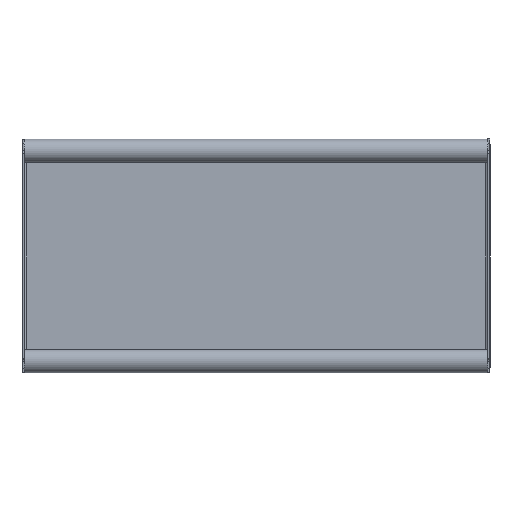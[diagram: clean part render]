
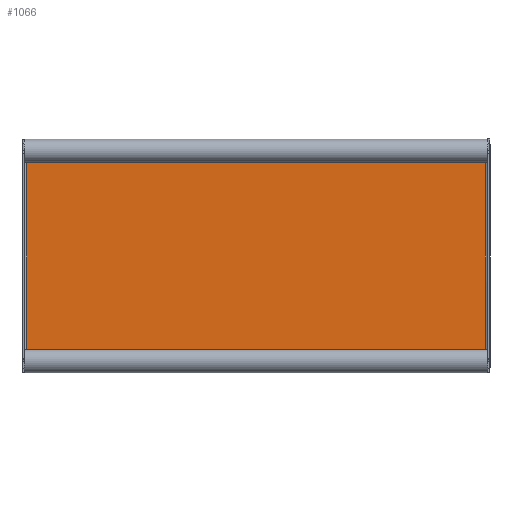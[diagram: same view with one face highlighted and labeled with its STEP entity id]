
A CAD part, front view. The second image highlights one B-rep face of the part: STEP entity #1066.
In plain terms, the highlighted planar face has unit normal (0, -1, 0).
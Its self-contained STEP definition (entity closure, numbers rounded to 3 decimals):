
#233 = DIRECTION ( 'NONE',  ( 0., 0., 1. ) ) ;
#445 = FACE_OUTER_BOUND ( 'NONE', #9663, .T. ) ;
#620 = EDGE_CURVE ( 'NONE', #5207, #5298, #9362, .T. ) ;
#685 = EDGE_CURVE ( 'NONE', #5207, #6225, #3852, .T. ) ;
#723 = CARTESIAN_POINT ( 'NONE',  ( -199., -2., 99. ) ) ;
#763 = CARTESIAN_POINT ( 'NONE',  ( -195., -2., -96. ) ) ;
#795 = VERTEX_POINT ( 'NONE', #8731 ) ;
#1066 = ADVANCED_FACE ( 'NONE', ( #445 ), #6965, .F. ) ;
#1067 = CIRCLE ( 'NONE', #3922, 5. ) ;
#1097 = ORIENTED_EDGE ( 'NONE', *, *, #6200, .F. ) ;
#1419 = LINE ( 'NONE', #2145, #3929 ) ;
#1674 = DIRECTION ( 'NONE',  ( 0., 0., 1. ) ) ;
#1818 = LINE ( 'NONE', #5030, #3424 ) ;
#1878 = VERTEX_POINT ( 'NONE', #8595 ) ;
#2112 = EDGE_CURVE ( 'NONE', #5957, #7296, #7720, .T. ) ;
#2145 = CARTESIAN_POINT ( 'NONE',  ( -196., -2., -99. ) ) ;
#2522 = DIRECTION ( 'NONE',  ( 1., 0., 0. ) ) ;
#2814 = DIRECTION ( 'NONE',  ( 0., -1., 0. ) ) ;
#3063 = DIRECTION ( 'NONE',  ( 0., 0., 1. ) ) ;
#3402 = AXIS2_PLACEMENT_3D ( 'NONE', #7285, #8207, #233 ) ;
#3424 = VECTOR ( 'NONE', #4190, 1000. ) ;
#3852 = LINE ( 'NONE', #8332, #10032 ) ;
#3922 = AXIS2_PLACEMENT_3D ( 'NONE', #7326, #5874, #1674 ) ;
#3923 = DIRECTION ( 'NONE',  ( 0., -1., 0. ) ) ;
#3929 = VECTOR ( 'NONE', #6303, 1000. ) ;
#3981 = EDGE_CURVE ( 'NONE', #5957, #5298, #1818, .T. ) ;
#4165 = VECTOR ( 'NONE', #2522, 1000. ) ;
#4190 = DIRECTION ( 'NONE',  ( 1., 0., 0. ) ) ;
#4351 = ORIENTED_EDGE ( 'NONE', *, *, #3981, .T. ) ;
#4490 = CARTESIAN_POINT ( 'NONE',  ( 195., -2., -96. ) ) ;
#4822 = EDGE_CURVE ( 'NONE', #5498, #1878, #10251, .T. ) ;
#4939 = ORIENTED_EDGE ( 'NONE', *, *, #685, .T. ) ;
#5030 = CARTESIAN_POINT ( 'NONE',  ( -199., -2., -96. ) ) ;
#5207 = VERTEX_POINT ( 'NONE', #8810 ) ;
#5298 = VERTEX_POINT ( 'NONE', #4490 ) ;
#5498 = VERTEX_POINT ( 'NONE', #7086 ) ;
#5874 = DIRECTION ( 'NONE',  ( 0., -1., 0. ) ) ;
#5942 = CARTESIAN_POINT ( 'NONE',  ( -196., -2., -95. ) ) ;
#5957 = VERTEX_POINT ( 'NONE', #763 ) ;
#5961 = DIRECTION ( 'NONE',  ( 0., 0., 1. ) ) ;
#6110 = AXIS2_PLACEMENT_3D ( 'NONE', #723, #3923, #5961 ) ;
#6200 = EDGE_CURVE ( 'NONE', #795, #6225, #1067, .T. ) ;
#6225 = VERTEX_POINT ( 'NONE', #6550 ) ;
#6303 = DIRECTION ( 'NONE',  ( 0., 0., 1. ) ) ;
#6550 = CARTESIAN_POINT ( 'NONE',  ( 196., -2., 95. ) ) ;
#6664 = LINE ( 'NONE', #7293, #4165 ) ;
#6890 = AXIS2_PLACEMENT_3D ( 'NONE', #10028, #7730, #9930 ) ;
#6965 = PLANE ( 'NONE',  #6890 ) ;
#7086 = CARTESIAN_POINT ( 'NONE',  ( -196., -2., 95. ) ) ;
#7231 = ORIENTED_EDGE ( 'NONE', *, *, #7900, .F. ) ;
#7285 = CARTESIAN_POINT ( 'NONE',  ( -199., -2., -99. ) ) ;
#7293 = CARTESIAN_POINT ( 'NONE',  ( -199., -2., 96. ) ) ;
#7296 = VERTEX_POINT ( 'NONE', #5942 ) ;
#7326 = CARTESIAN_POINT ( 'NONE',  ( 199., -2., 99. ) ) ;
#7379 = AXIS2_PLACEMENT_3D ( 'NONE', #9114, #2814, #3063 ) ;
#7720 = CIRCLE ( 'NONE', #3402, 5. ) ;
#7730 = DIRECTION ( 'NONE',  ( 0., 1., 0. ) ) ;
#7900 = EDGE_CURVE ( 'NONE', #7296, #5498, #1419, .T. ) ;
#8207 = DIRECTION ( 'NONE',  ( 0., -1., 0. ) ) ;
#8332 = CARTESIAN_POINT ( 'NONE',  ( 196., -2., -99. ) ) ;
#8578 = DIRECTION ( 'NONE',  ( 0., 0., 1. ) ) ;
#8595 = CARTESIAN_POINT ( 'NONE',  ( -195., -2., 96. ) ) ;
#8731 = CARTESIAN_POINT ( 'NONE',  ( 195., -2., 96. ) ) ;
#8810 = CARTESIAN_POINT ( 'NONE',  ( 196., -2., -95. ) ) ;
#8997 = ORIENTED_EDGE ( 'NONE', *, *, #620, .F. ) ;
#9114 = CARTESIAN_POINT ( 'NONE',  ( 199., -2., -99. ) ) ;
#9216 = ORIENTED_EDGE ( 'NONE', *, *, #4822, .F. ) ;
#9362 = CIRCLE ( 'NONE', #7379, 5. ) ;
#9663 = EDGE_LOOP ( 'NONE', ( #8997, #4939, #1097, #10306, #9216, #7231, #10280, #4351 ) ) ;
#9930 = DIRECTION ( 'NONE',  ( 0., 0., 1. ) ) ;
#10028 = CARTESIAN_POINT ( 'NONE',  ( -199., -2., -99. ) ) ;
#10032 = VECTOR ( 'NONE', #8578, 1000. ) ;
#10251 = CIRCLE ( 'NONE', #6110, 5. ) ;
#10276 = EDGE_CURVE ( 'NONE', #1878, #795, #6664, .T. ) ;
#10280 = ORIENTED_EDGE ( 'NONE', *, *, #2112, .F. ) ;
#10306 = ORIENTED_EDGE ( 'NONE', *, *, #10276, .F. ) ;
